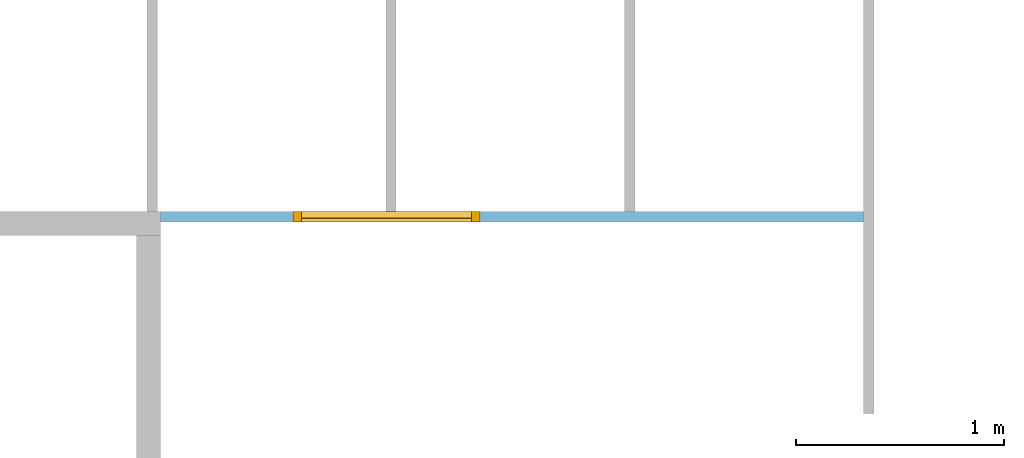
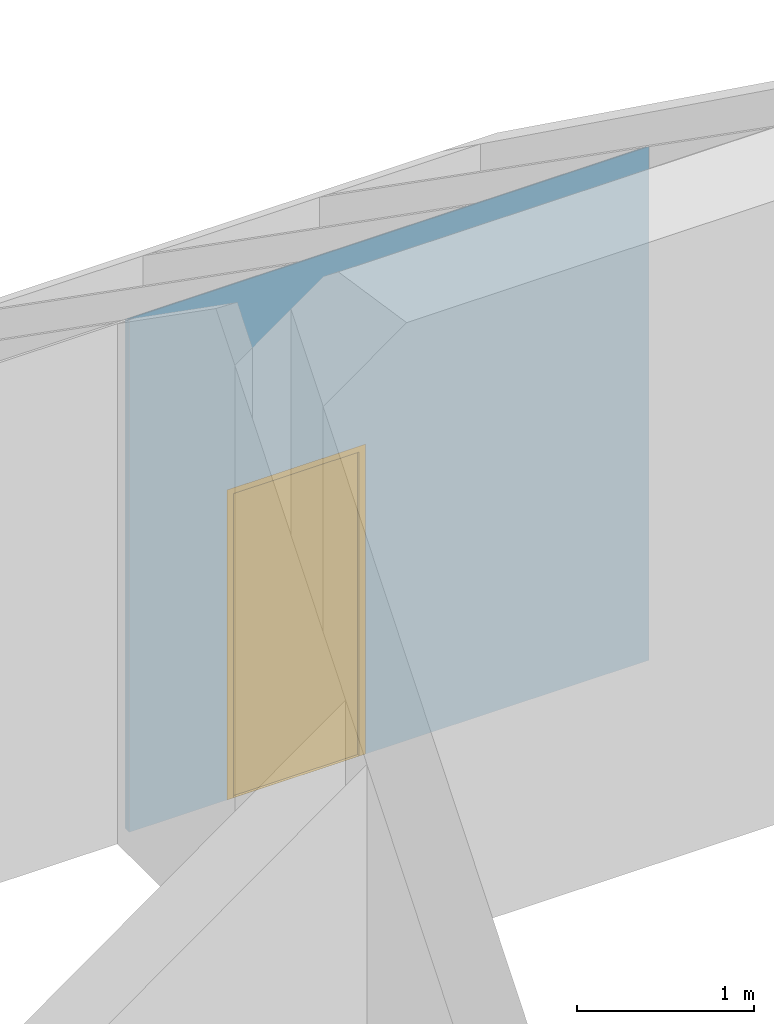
# One storey, part 23 of 23: 1 door, 1 opening, plus 1 element that does not belong to this part.
"""IFC2X3 building model written with IfcOpenShell, lengths in millimetres."""

import ifcopenshell
import ifcopenshell.guid

model = None  # the IFC model being written
_history = None  # IfcOwnerHistory: only IFC2X3 demands one
_inside = {}  # id of a spatial element -> (the spatial element, [elements in it])
_under = {}  # id of a project, library or spatial element -> (it, [spatial elements below it])
_declared = {}  # id of a project -> (the project, [libraries it declares])
_typed = {}  # id of a type object -> (the type object, [elements of that type])
_made_of = {}  # id of a material, layer set ... -> (it, [elements and type objects made of it])


def new_model(schema):
    """Start an empty IFC model of exactly this schema.

    Asked for "IFC4X3", IfcOpenShell would pick the latest addendum, in which some entities
    have other attributes; the version numbers below select the first issue.
    IFC2X3 requires an IfcOwnerHistory on every rooted entity: one is made here for all.
    """
    global model, _history
    if schema == "IFC4X3":
        model = ifcopenshell.file(schema_version=(4, 3, 0, 0))
    else:
        model = ifcopenshell.file(schema=schema)
    _inside.clear()
    _under.clear()
    _declared.clear()
    _typed.clear()
    _made_of.clear()
    _history = None
    if model.schema == "IFC2X3":
        org = make("IfcOrganization", Name="unknown")
        user = make(
            "IfcPersonAndOrganization",
            ThePerson=make("IfcPerson", FamilyName="unknown"),
            TheOrganization=org,
        )
        app = make(
            "IfcApplication",
            ApplicationDeveloper=org,
            Version="unknown",
            ApplicationFullName="unknown",
            ApplicationIdentifier="unknown",
        )
        _history = make(
            "IfcOwnerHistory",
            OwningUser=user,
            OwningApplication=app,
            ChangeAction="ADDED",
            CreationDate=0,
        )
    return model


def make(cls, **values):
    """One entity of the class cls with the attributes given. An attribute that is None is left unset."""
    return model.create_entity(
        cls, **{name: value for name, value in values.items() if value is not None}
    )


def entity(cls, *values):
    """Any entity or typed value of the class cls, its attributes in the order of the schema. None: left unset."""
    e = model.create_entity(cls)
    for i, value in enumerate(values):
        if value is not None:
            e[i] = value
    return e


def rooted(cls, **values):
    """An entity with a GlobalId (a new one), such as an element, a storey or a relation."""
    return make(cls, GlobalId=ifcopenshell.guid.new(), OwnerHistory=_history, **values)


def si_unit(unit_type, name, prefix=None):
    """IfcSIUnit, for example si_unit("LENGTHUNIT", "METRE", prefix="MILLI")."""
    return make("IfcSIUnit", UnitType=unit_type, Prefix=prefix, Name=name)


def converted_unit(unit_type, name, factor, base, dimensions=None, offset=None):
    """IfcConversionBasedUnit, such as the inch: factor (a typed value) times the base unit."""
    return make(
        "IfcConversionBasedUnit"
        if offset is None
        else "IfcConversionBasedUnitWithOffset",
        ConversionOffset=offset,
        Dimensions=None
        if dimensions is None
        else entity("IfcDimensionalExponents", *dimensions),
        UnitType=unit_type,
        Name=name,
        ConversionFactor=make(
            "IfcMeasureWithUnit", ValueComponent=factor, UnitComponent=base
        ),
    )


def assignment(units):
    """IfcUnitAssignment: the units of a project."""
    return None if units is None else make("IfcUnitAssignment", Units=units)


def point(xyz):
    """IfcCartesianPoint."""
    return None if xyz is None else make("IfcCartesianPoint", Coordinates=xyz)


def direction(xyz):
    """IfcDirection."""
    return None if xyz is None else make("IfcDirection", DirectionRatios=xyz)


def frame(location, z_axis=None, x_axis=None):
    """IfcAxis2Placement3D, a coordinate frame: its origin and axes. An axis left out is left unset."""
    return make(
        "IfcAxis2Placement3D",
        Location=point(location),
        Axis=direction(z_axis),
        RefDirection=direction(x_axis),
    )


def frame_2d(location, x_axis=None):
    """IfcAxis2Placement2D, a coordinate frame in the plane: its origin and x axis."""
    return make(
        "IfcAxis2Placement2D", Location=point(location), RefDirection=direction(x_axis)
    )


def origin():
    """The frame at (0, 0, 0) with its axes left unset."""
    return frame((0.0, 0.0, 0.0))


def origin_with_axes():
    """The frame at (0, 0, 0) with the z axis (0, 0, 1) and the x axis (1, 0, 0) written out."""
    return frame((0.0, 0.0, 0.0), z_axis=(0.0, 0.0, 1.0), x_axis=(1.0, 0.0, 0.0))


def place(relative_to, where):
    """IfcLocalPlacement: puts the frame where relative to a parent placement (None: the world)."""
    return make(
        "IfcLocalPlacement", PlacementRelTo=relative_to, RelativePlacement=where
    )


def context(
    kind, dimensions, precision=None, world=None, true_north=None, identifier=None
):
    """IfcGeometricRepresentationContext, for example the 3D "Model" context."""
    return make(
        "IfcGeometricRepresentationContext",
        ContextIdentifier=identifier,
        ContextType=kind,
        CoordinateSpaceDimension=dimensions,
        Precision=precision,
        WorldCoordinateSystem=world,
        TrueNorth=true_north,
    )


def subcontext(parent, identifier, kind, view, scale=None):
    """IfcGeometricRepresentationSubContext, for example "Body" below "Model"."""
    return make(
        "IfcGeometricRepresentationSubContext",
        ContextIdentifier=identifier,
        ContextType=kind,
        ParentContext=parent,
        TargetScale=scale,
        TargetView=view,
    )


def project(units=None, contexts=None):
    """IfcProject with its units and contexts."""
    return rooted(
        "IfcProject",
        Name="project",
        RepresentationContexts=contexts,
        UnitsInContext=assignment(units),
    )


def spatial(cls, under=None, at=None, **own):
    """A site, building, storey or space (cls), placed at a placement, below another one or the project."""
    s = rooted(cls, ObjectPlacement=at, **own)
    if under is not None:
        _under.setdefault(under.id(), (under, []))[1].append(s)
    return s


def profile(cls, at=None, kind="AREA", **sizes):
    """A parametric profile (cls). Its sizes go by their IFC names, for example OverallWidth=200.0."""
    return make(cls, ProfileType=kind, Position=at, **sizes)


def rectangle(**sizes):
    """IfcRectangleProfileDef."""
    return profile("IfcRectangleProfileDef", **sizes)


def extrude(swept, where, along, depth):
    """IfcExtrudedAreaSolid: the profile swept, set in the frame where, extruded along a direction by depth."""
    return make(
        "IfcExtrudedAreaSolid",
        SweptArea=swept,
        Position=where,
        ExtrudedDirection=direction(along),
        Depth=depth,
    )


def clip(a, b, op="DIFFERENCE"):
    """IfcBooleanClippingResult: the solid a cut by the half space b."""
    return make(
        "IfcBooleanClippingResult", Operator=op, FirstOperand=a, SecondOperand=b
    )


def halfspace(plane, agree):
    """IfcHalfSpaceSolid: all space on one side of the plane z = 0 of the frame plane."""
    return make(
        "IfcHalfSpaceSolid",
        BaseSurface=make("IfcPlane", Position=plane),
        AgreementFlag=agree,
    )


def faces_of(points, faces, orient=None, outer=None):
    """IfcFace entities. A face is a list of loops; a loop is a list of indices into points, from 0.

    orient and outer hold one flag for each loop. By default every Orientation is true, the
    first loop of a face is its IfcFaceOuterBound and the others are IfcFaceBound.
    """
    made = []
    for i, loops in enumerate(faces):
        bounds = []
        for j, loop in enumerate(loops):
            is_outer = j == 0 if outer is None else outer[i][j]
            bounds.append(
                make(
                    "IfcFaceOuterBound" if is_outer else "IfcFaceBound",
                    Bound=make("IfcPolyLoop", Polygon=[points[k] for k in loop]),
                    Orientation=True if orient is None else orient[i][j],
                )
            )
        made.append(make("IfcFace", Bounds=bounds))
    return made


def faceted_brep(points, faces, orient=None, outer=None, voids=None):
    """IfcFacetedBrep: a solid bounded by flat faces; with voids (closed shells), ...WithVoids."""
    shared = [point(p) for p in points]
    hull = make("IfcClosedShell", CfsFaces=faces_of(shared, faces, orient, outer))
    if voids is None:
        return make("IfcFacetedBrep", Outer=hull)
    return make(
        "IfcFacetedBrepWithVoids",
        Outer=hull,
        Voids=[
            make(cls, CfsFaces=faces_of(shared, fs, o, b)) for cls, fs, o, b in voids
        ],
    )


def shape(context_of_items, identifier, shape_type, items):
    """IfcShapeRepresentation: the items that make up one representation, for example the "Body"."""
    return make(
        "IfcShapeRepresentation",
        ContextOfItems=context_of_items,
        RepresentationIdentifier=identifier,
        RepresentationType=shape_type,
        Items=items,
    )


def material(Name=None, Category=None):
    """IfcMaterial."""
    return make("IfcMaterial", Name=Name, Category=Category)


def layer(
    of_material, thickness, ventilated=None, Name=None, Category=None, Priority=None
):
    """IfcMaterialLayer: one layer of a wall or slab, of a material (None: an air gap)."""
    return make(
        "IfcMaterialLayer",
        Material=of_material,
        LayerThickness=thickness,
        IsVentilated=ventilated,
        Name=Name,
        Category=Category,
        Priority=Priority,
    )


def layer_set(layers, Name=None):
    """IfcMaterialLayerSet."""
    return make("IfcMaterialLayerSet", MaterialLayers=layers, LayerSetName=Name)


def layer_usage(for_layer_set, set_direction, sense, offset, extent=None):
    """IfcMaterialLayerSetUsage: how a layer set lies in its element."""
    return make(
        "IfcMaterialLayerSetUsage",
        ForLayerSet=for_layer_set,
        LayerSetDirection=set_direction,
        DirectionSense=sense,
        OffsetFromReferenceLine=offset,
        ReferenceExtent=extent,
    )


def made_of(thing, what):
    """Note that an element or type object is made of a material, layer set ...; save() writes the relation."""
    if what is not None:
        _made_of.setdefault(what.id(), (what, []))[1].append(thing)
    return thing


def type_object(cls, material=None, **own):
    """A type object (cls), such as IfcWallType, which elements share."""
    return made_of(rooted(cls, **own), material)


def element(
    cls,
    number,
    at=None,
    inside=None,
    cuts=None,
    type_object=None,
    material=None,
    context=None,
    identifier="Body",
    shape_type=None,
    held_by="IfcProductDefinitionShape",
    body=None,
    shapes=None,
    **own,
):
    """One element of the class cls, such as IfcWall. Its Tag is "e" and its number.

    at: its placement. inside: the storey or other place that contains it. cuts: it is an
    opening in that element (IfcRelVoidsElement). A single representation is given by context,
    identifier, shape_type and body (its items); several are given by shapes. held_by: the class
    of the entity that holds the representations. save() writes the other relations.
    """
    e = rooted(cls, Tag="e%d" % number, ObjectPlacement=at, **own)
    if body is not None:
        shapes = [shape(context, identifier, shape_type, body)]
    if shapes is not None:
        e.Representation = make(held_by, Representations=shapes)
    if inside is not None:
        _inside.setdefault(inside.id(), (inside, []))[1].append(e)
    if cuts is not None:
        rooted(
            "IfcRelVoidsElement", RelatingBuildingElement=cuts, RelatedOpeningElement=e
        )
    if type_object is not None:
        _typed.setdefault(type_object.id(), (type_object, []))[1].append(e)
    return made_of(e, material)


def fill(opening, filler):
    """IfcRelFillsElement: the door or window that sits in an opening."""
    return rooted(
        "IfcRelFillsElement",
        RelatingOpeningElement=opening,
        RelatedBuildingElement=filler,
    )


def aggregate(whole, parts):
    """IfcRelAggregates: a whole, such as a stair, and the parts it consists of."""
    return rooted("IfcRelAggregates", RelatingObject=whole, RelatedObjects=parts)


def save(model, path):
    """Write the relations noted so far, then the file.

    IfcRelAggregates (storeys below a building ...), IfcRelContainedInSpatialStructure (elements
    in a storey), IfcRelDefinesByType, IfcRelAssociatesMaterial and IfcRelDeclares: one each for
    every whole, place, type object, material and project.
    """
    for whole, parts in _under.values():
        aggregate(whole, parts)
    for where, things in _inside.values():
        rooted(
            "IfcRelContainedInSpatialStructure",
            RelatedElements=things,
            RelatingStructure=where,
        )
    for kind, things in _typed.values():
        rooted("IfcRelDefinesByType", RelatedObjects=things, RelatingType=kind)
    for what, things in _made_of.values():
        rooted("IfcRelAssociatesMaterial", RelatedObjects=things, RelatingMaterial=what)
    for by, libraries in _declared.values():
        rooted("IfcRelDeclares", RelatingContext=by, RelatedDefinitions=libraries)
    model.write(path)


model = new_model("IFC2X3")

# Units and contexts
model_context = context("Model", 3, precision=1e-05, world=origin())
body_context = subcontext(model_context, "Body", "Model", "MODEL_VIEW")
ifc_project = project(units=[si_unit("LENGTHUNIT", "METRE", prefix="MILLI"), converted_unit("PLANEANGLEUNIT", "DEGREE", entity("IfcPlaneAngleMeasure", 0.0174532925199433), si_unit("PLANEANGLEUNIT", "RADIAN"), dimensions=[0, 0, 0, 0, 0, 0, 0]), si_unit("AREAUNIT", "SQUARE_METRE"), si_unit("VOLUMEUNIT", "CUBIC_METRE")], contexts=[model_context])

# Building, storey
building_placement = place(None, origin())
building = spatial("IfcBuilding", under=ifc_project, at=building_placement, Name="Gebäude", CompositionType="ELEMENT")
storey_placement = place(building_placement, frame((0.0, 0.0, 5580.0), z_axis=(0.0, 0.0, 1.0), x_axis=(1.0, 0.0, 0.0)))
storey = spatial("IfcBuildingStorey", under=building, at=storey_placement, Name="DG.- Grundriss", CompositionType="ELEMENT", Elevation=5580.0)

# Wall, opening, door
ifc_material_1 = material(Name="Metallgitterwand")
ifc_layer = layer(ifc_material_1, 49.99999999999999)
ifc_layer_set = layer_set([ifc_layer])
ifc_layer_usage = layer_usage(ifc_layer_set, "AXIS2", "POSITIVE", 0.0)
wall_placement = place(storey_placement, frame((179752.7928067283, 132194.886626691, 0.0), z_axis=(0.0, 0.0, 1.0), x_axis=(0.9999999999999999, 0.0, 0.0)))
wall = element("IfcWallStandardCase", 1, at=wall_placement, inside=storey, material=ifc_layer_usage, Name="<Unnamed Element>", context=body_context, shape_type="Clipping", body=[
    clip(extrude(rectangle(XDim=3385.0, YDim=49.99999999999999, at=frame_2d((1692.5, 25.0), x_axis=(1.0, 0.0))), origin_with_axes(), (0.0, 0.0, 1.0), 3536.847530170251), halfspace(frame((0.0, 0.0, 3536.847530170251), z_axis=(-2.200928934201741e-16, -0.5735764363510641, -0.8191520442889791), x_axis=(1.0, 0.0, 0.0)), True)),
])
opening_placement = place(wall_placement, frame((637.5443397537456, 0.0, 0.0), z_axis=(0.0, 1.0, 0.0), x_axis=(0.0, 0.0, 1.0)))
opening = element("IfcOpeningElement", 2, at=opening_placement, cuts=wall, Name="Türöffnung", ObjectType="Opening", context=body_context, shape_type="SweptSolid", body=[
    extrude(rectangle(XDim=2135.0, YDim=900.0, at=frame_2d((1067.5, 450.0), x_axis=(1.0, 0.0))), origin_with_axes(), (0.0, 0.0, 1.0), 50.0),
])
ifc_material_2 = material()
door_style = type_object("IfcDoorStyle", Name="m", ConstructionType="NOTDEFINED", OperationType="SINGLE_SWING_LEFT", ParameterTakesPrecedence=False, Sizeable=False)
door_placement = place(opening_placement, frame((0.0, 0.0, 0.0), z_axis=(1.0, 0.0, 0.0), x_axis=(0.0, 1.0, 0.0)))
door = element("IfcDoor", 3, at=door_placement, inside=storey, type_object=door_style, material=ifc_material_2, Name="m", OverallHeight=2135.0, OverallWidth=900.0, context=body_context, shape_type="Brep", body=[
    faceted_brep([(860.0, 6.719069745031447e-12, 0.0), (860.0, 6.719069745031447e-12, 2135.0), (900.0, 6.714628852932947e-12, 2135.0), (900.0, 6.714628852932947e-12, 0.0), (900.0, 50.00000000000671, 0.0), (900.0, 50.00000000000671, 2135.0), (860.0, 50.00000000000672, 2135.0), (860.0, 50.00000000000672, 0.0), (900.0, 6.714628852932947e-12, 0.0), (900.0, 50.00000000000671, 0.0), (860.0, 50.00000000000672, 0.0), (860.0, 6.719069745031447e-12, 0.0), (900.0, 6.714628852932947e-12, 2135.0), (900.0, 50.00000000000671, 2135.0), (900.0, 50.00000000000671, 0.0), (900.0, 6.714628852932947e-12, 0.0), (860.0, 6.719069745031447e-12, 2135.0), (860.0, 50.00000000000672, 2135.0), (900.0, 50.00000000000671, 2135.0), (900.0, 6.714628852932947e-12, 2135.0), (860.0, 6.719069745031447e-12, 0.0), (860.0, 50.00000000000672, 0.0), (860.0, 50.00000000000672, 2135.0), (860.0, 6.719069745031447e-12, 2135.0)], [[[0, 1, 2, 3]], [[4, 5, 6, 7]], [[8, 9, 10, 11]], [[12, 13, 14, 15]], [[16, 17, 18, 19]], [[20, 21, 22, 23]]], orient=[[False], [False], [False], [False], [False], [False]]),
    faceted_brep([(40.0, 6.712852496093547e-12, 2135.0), (40.0, 6.712852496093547e-12, 0.0), (-3.532634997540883e-17, 6.718181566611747e-12, 0.0), (-3.532634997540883e-17, 6.718181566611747e-12, 2135.0), (6.087907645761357e-15, 50.00000000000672, 2135.0), (6.087907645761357e-15, 50.00000000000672, 0.0), (40.00000000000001, 50.00000000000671, 0.0), (40.00000000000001, 50.00000000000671, 2135.0), (-3.532634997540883e-17, 6.718181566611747e-12, 2135.0), (6.087907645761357e-15, 50.00000000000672, 2135.0), (40.00000000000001, 50.00000000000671, 2135.0), (40.0, 6.712852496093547e-12, 2135.0), (-3.532634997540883e-17, 6.718181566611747e-12, 0.0), (6.087907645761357e-15, 50.00000000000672, 0.0), (6.087907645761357e-15, 50.00000000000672, 2135.0), (-3.532634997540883e-17, 6.718181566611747e-12, 2135.0), (40.0, 6.712852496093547e-12, 0.0), (40.00000000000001, 50.00000000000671, 0.0), (6.087907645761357e-15, 50.00000000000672, 0.0), (-3.532634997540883e-17, 6.718181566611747e-12, 0.0), (40.0, 6.712852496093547e-12, 2135.0), (40.00000000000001, 50.00000000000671, 2135.0), (40.00000000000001, 50.00000000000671, 0.0), (40.0, 6.712852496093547e-12, 0.0)], [[[0, 1, 2, 3]], [[4, 5, 6, 7]], [[8, 9, 10, 11]], [[12, 13, 14, 15]], [[16, 17, 18, 19]], [[20, 21, 22, 23]]], orient=[[False], [False], [False], [False], [False], [False]]),
    faceted_brep([(860.0, 6.619593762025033e-12, 2095.0), (39.99999999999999, 6.719957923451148e-12, 2095.0), (39.99999999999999, 6.719957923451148e-12, 2135.0), (860.0, 6.619593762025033e-12, 2135.0), (860.0, 50.00000000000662, 2135.0), (40.0, 50.00000000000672, 2135.0), (40.0, 50.00000000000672, 2095.0), (860.0, 50.00000000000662, 2095.0), (860.0, 6.619593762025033e-12, 2135.0), (860.0, 50.00000000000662, 2135.0), (860.0, 50.00000000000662, 2095.0), (860.0, 6.619593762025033e-12, 2095.0), (39.99999999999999, 6.719957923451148e-12, 2135.0), (40.0, 50.00000000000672, 2135.0), (860.0, 50.00000000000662, 2135.0), (860.0, 6.619593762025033e-12, 2135.0), (39.99999999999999, 6.719957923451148e-12, 2095.0), (40.0, 50.00000000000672, 2095.0), (40.0, 50.00000000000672, 2135.0), (39.99999999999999, 6.719957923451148e-12, 2135.0), (860.0, 6.619593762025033e-12, 2095.0), (860.0, 50.00000000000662, 2095.0), (40.0, 50.00000000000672, 2095.0), (39.99999999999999, 6.719957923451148e-12, 2095.0)], [[[0, 1, 2, 3]], [[4, 5, 6, 7]], [[8, 9, 10, 11]], [[12, 13, 14, 15]], [[16, 17, 18, 19]], [[20, 21, 22, 23]]], orient=[[False], [False], [False], [False], [False], [False]]),
    faceted_brep([(39.99999999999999, 6.719957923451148e-12, 1.0), (860.0, 6.619593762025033e-12, 1.0), (860.0, 6.619593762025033e-12, 0.0), (39.99999999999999, 6.719957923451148e-12, 0.0), (40.0, 50.00000000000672, 0.0), (860.0, 50.00000000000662, 0.0), (860.0, 50.00000000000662, 1.0), (40.0, 50.00000000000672, 1.0), (39.99999999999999, 6.719957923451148e-12, 0.0), (40.0, 50.00000000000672, 0.0), (40.0, 50.00000000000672, 1.0), (39.99999999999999, 6.719957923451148e-12, 1.0), (860.0, 6.619593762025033e-12, 0.0), (860.0, 50.00000000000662, 0.0), (40.0, 50.00000000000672, 0.0), (39.99999999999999, 6.719957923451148e-12, 0.0), (860.0, 6.619593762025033e-12, 1.0), (860.0, 50.00000000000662, 1.0), (860.0, 50.00000000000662, 0.0), (860.0, 6.619593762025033e-12, 0.0), (39.99999999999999, 6.719957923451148e-12, 1.0), (40.0, 50.00000000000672, 1.0), (860.0, 50.00000000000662, 1.0), (860.0, 6.619593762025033e-12, 1.0)], [[[0, 1, 2, 3]], [[4, 5, 6, 7]], [[8, 9, 10, 11]], [[12, 13, 14, 15]], [[16, 17, 18, 19]], [[20, 21, 22, 23]]], orient=[[False], [False], [False], [False], [False], [False]]),
    faceted_brep([(860.0, 17.50000000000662, 1.0), (40.0, 17.50000000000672, 1.0), (40.0, 17.50000000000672, 2095.0), (860.0, 17.50000000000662, 2095.0), (860.0, 18.50000000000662, 1.0), (860.0, 18.50000000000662, 2095.0), (40.0, 18.50000000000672, 2095.0), (40.0, 18.50000000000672, 1.0), (860.0, 17.50000000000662, 1.0), (860.0, 18.50000000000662, 1.0), (40.0, 18.50000000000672, 1.0), (40.0, 17.50000000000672, 1.0), (40.0, 17.50000000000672, 1.0), (40.0, 18.50000000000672, 1.0), (40.0, 18.50000000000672, 2095.0), (40.0, 17.50000000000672, 2095.0), (40.0, 17.50000000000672, 2095.0), (40.0, 18.50000000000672, 2095.0), (860.0, 18.50000000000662, 2095.0), (860.0, 17.50000000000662, 2095.0), (860.0, 17.50000000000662, 2095.0), (860.0, 18.50000000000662, 2095.0), (860.0, 18.50000000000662, 1.0), (860.0, 17.50000000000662, 1.0)], [[[0, 1, 2, 3]], [[4, 5, 6, 7]], [[8, 9, 10, 11]], [[12, 13, 14, 15]], [[16, 17, 18, 19]], [[20, 21, 22, 23]]], orient=[[False], [False], [False], [False], [False], [False]]),
])
fill(opening, door)

save(model, "model.ifc")
